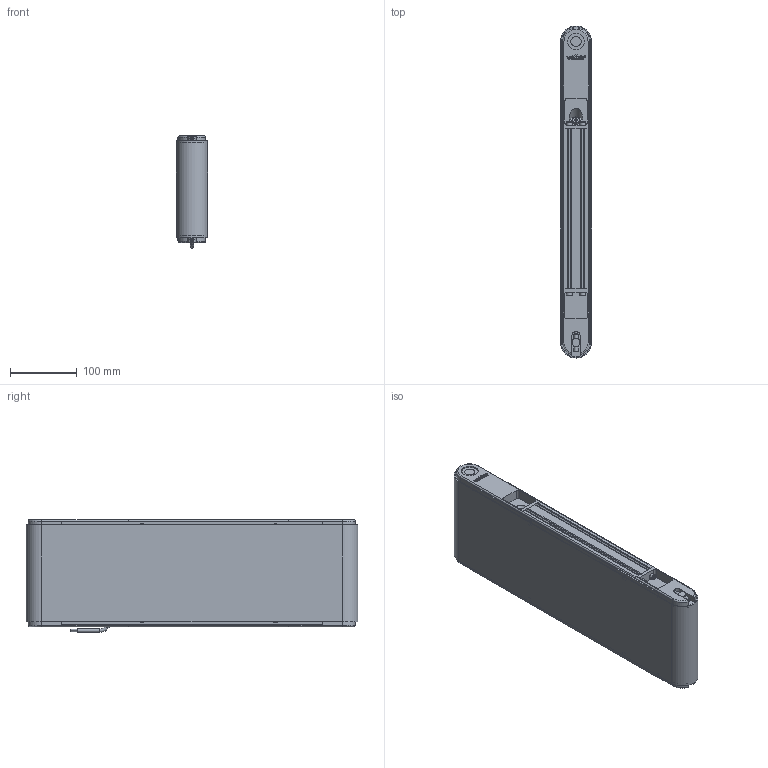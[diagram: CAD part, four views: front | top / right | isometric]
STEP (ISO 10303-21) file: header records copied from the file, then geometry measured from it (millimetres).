
FILE_DESCRIPTION(/* description */ (''),/* implementation_level */ '2;1');
FILE_NAME(/* name */ 'G:\DATEN\CAD\Förderband\Marketing\3D-Modelle (Standard)\FR-40-160\FR-40-160-450-K.stp',/* time_stamp */ '2019-05-08T09:04:10+02:00',/* author */ ('melanie.ochs'),/* organization */ (''),/* preprocessor_version */ 'ST-DEVELOPER v17',/* originating_system */ 'Autodesk Inventor 2019',/* authorisation */ '');
FILE_SCHEMA (('CONFIG_CONTROL_DESIGN'));
Length unit declared in the file: centimetre
Products named in the file (1): FR-40-160-450-K
Bounding box: 46.6 x 496.6 x 168.53 mm (x, y, z)
Volume: 1825459.7 mm3; surface area: 539450.5 mm2
Topology: 6 solids, 25 shells, 996 faces, 2706 edges, 1807 vertices
Faces by surface type: plane 511, cylinder 276, bspline 122, cone 62, torus 25
Full cylindrical faces by diameter (mm): 2 x2, 4 x6, 4.3 x4, 4.917 x1, 5 x11, 5.5 x8, 6 x4, 6.5 x1, 6.647 x3, 8 x4, 8.3 x4, 8.5 x8, 8.773 x1, 10 x1, 11 x1, 12 x5, 15 x2, 20 x4, 25 x2, 28 x4
Entity records: 33862 total; most frequent: CARTESIAN_POINT 8069, ORIENTED_EDGE 5382, DIRECTION 4856, EDGE_CURVE 2691, VERTEX_POINT 1807, AXIS2_PLACEMENT_3D 1682, LINE 1492, VECTOR 1492
